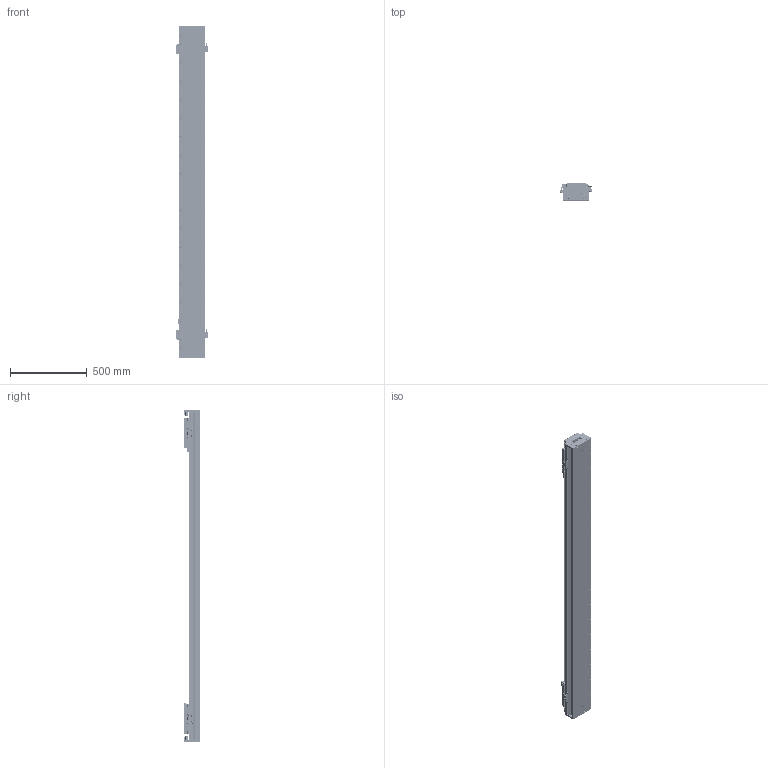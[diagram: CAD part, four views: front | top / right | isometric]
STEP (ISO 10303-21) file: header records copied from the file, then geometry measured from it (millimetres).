
FILE_DESCRIPTION (( 'STEP AP203' ), '1' );
FILE_NAME ('DKW168-2×C2-W090（T1640-L005-0.2）.STEP', '2022-03-08T01:20:07', ( '微软用户' ), ( '微软中国' ), 'SwSTEP 2.0', 'SolidWorks 2018', '' );
FILE_SCHEMA (( 'CONFIG_CONTROL_DESIGN' ));
Length unit declared in the file: millimetre
Products named in the file (24): DKW168-HXJ-ZJ-00 笢潔滅袉砎蝶; RUS嫖掑喜; DKW168-HXJ-00 遣喳砎蝶; DKW-GYP-ZJ-00 笢潔嫖萇覜茼え; Ru2; 10392-0001-002-00 詩湍裔啣; DKW-KGZ-ZJ-00 中间光电开关支架; pm-y65; 10392-0001-003-00 詩湍嶺輸; EE_SX674A; 10980-0001-003-00 嫖萇羲壽嘐隅釱; 10392-0001-004-00 詩湍揤輸; DKW168-2×C2-W090（T1640-L005-0.2）; 嫖萇羲壽蚾饜极; 10279-0001-006-00 嶺輸菜輸; DKW-SG-GYP-H-00 嫖萇覜茼え; DKW168 单轴模组-拉钢带组件; 10392-0001-001-00 菁釱; 嫖萇羲壽蚾饜极A; CKM01-W090-TRL280; MSA20絳寢; C2-W090_00; DKW168-RU-DTJ-00 RU2黍杅芛盓殤; 10279-0001-003-00 傷啣
Assembly tree (39 placements, depth 3):
  DKW168-2×C2-W090（T1640-L005-0.2）
    10392-0001-001-00 菁釱
    MSA20絳寢  x2
    DKW168 单轴模组-拉钢带组件
      10279-0001-003-00 傷啣  x2
      DKW168-HXJ-00 遣喳砎蝶  x4
      10392-0001-002-00 詩湍裔啣
      10392-0001-003-00 詩湍嶺輸  x2
      10392-0001-004-00 詩湍揤輸  x2
      10279-0001-006-00 嶺輸菜輸  x2
    CKM01-W090-TRL280
    DKW168-RU-DTJ-00 RU2黍杅芛盓殤  x2
    RUS嫖掑喜
    Ru2  x2
    嫖萇羲壽蚾饜极
      pm-y65  x2
      10980-0001-003-00 嫖萇羲壽嘐隅釱
    DKW-SG-GYP-H-00 嫖萇覜茼え  x2
    嫖萇羲壽蚾饜极A
      pm-y65  x2
      10980-0001-003-00 嫖萇羲壽嘐隅釱
    C2-W090_00  x2
    DKW168-HXJ-ZJ-00 笢潔滅袉砎蝶
    DKW-GYP-ZJ-00 笢潔嫖萇覜茼え
    DKW-KGZ-ZJ-00 中间光电开关支架
    EE_SX674A
Bounding box: 202.3 x 109 x 2160 mm (x, y, z)
Volume: 15172374.6 mm3; surface area: 4007893.3 mm2
Topology: 74 solids, 172 shells, 7559 faces, 19595 edges, 12523 vertices
Faces by surface type: plane 4085, cylinder 2104, cone 748, bspline 558, torus 32, sphere 32
Entity records: 146654 total; most frequent: CARTESIAN_POINT 46249, ORIENTED_EDGE 20369, DIRECTION 19442, EDGE_CURVE 10225, VERTEX_POINT 6634, AXIS2_PLACEMENT_3D 6516, VECTOR 6410, LINE 6410
